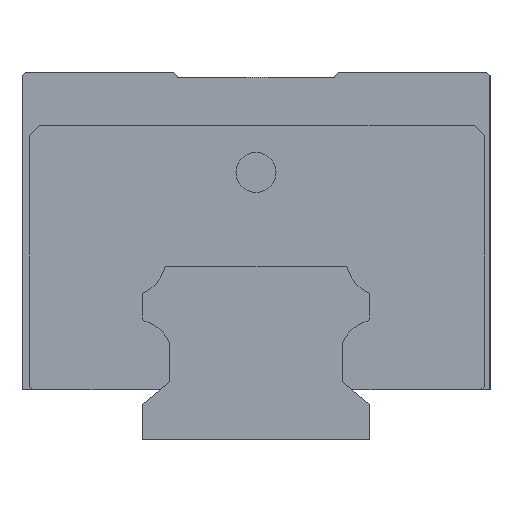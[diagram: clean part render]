
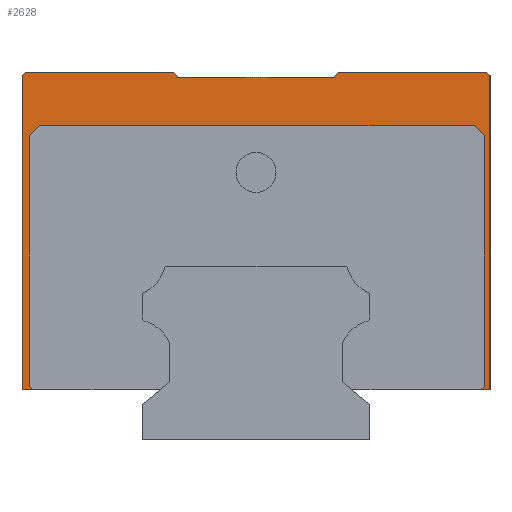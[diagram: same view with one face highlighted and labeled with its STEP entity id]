
A CAD part, left-side view. The second image highlights one B-rep face of the part: STEP entity #2628.
In plain terms, the highlighted planar face has unit normal (-1, 0, 0).
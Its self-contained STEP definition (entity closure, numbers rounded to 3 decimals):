
#35 = DIRECTION ( 'NONE',  ( 0., 1., 0. ) ) ;
#52 = CARTESIAN_POINT ( 'NONE',  ( -39.5, 12.296, 55. ) ) ;
#86 = DIRECTION ( 'NONE',  ( 0., -1., 0. ) ) ;
#93 = CARTESIAN_POINT ( 'NONE',  ( -39.5, 11.667, 54.25 ) ) ;
#211 = VECTOR ( 'NONE', #86, 1000. ) ;
#218 = LINE ( 'NONE', #4615, #2282 ) ;
#241 = DIRECTION ( 'NONE',  ( 0., 0., -1. ) ) ;
#316 = VERTEX_POINT ( 'NONE', #5755 ) ;
#364 = CARTESIAN_POINT ( 'NONE',  ( -39.5, 32.372, 47. ) ) ;
#410 = DIRECTION ( 'NONE',  ( 0., 1., 0. ) ) ;
#412 = ORIENTED_EDGE ( 'NONE', *, *, #1591, .F. ) ;
#418 = CARTESIAN_POINT ( 'NONE',  ( -39.5, -11.667, 54.25 ) ) ;
#433 = LINE ( 'NONE', #2764, #2066 ) ;
#464 = VERTEX_POINT ( 'NONE', #93 ) ;
#527 = LINE ( 'NONE', #418, #3419 ) ;
#622 = VERTEX_POINT ( 'NONE', #1875 ) ;
#626 = VECTOR ( 'NONE', #241, 1000. ) ;
#769 = CARTESIAN_POINT ( 'NONE',  ( -39.5, 33.872, 45.5 ) ) ;
#816 = ORIENTED_EDGE ( 'NONE', *, *, #1008, .F. ) ;
#879 = VERTEX_POINT ( 'NONE', #4540 ) ;
#908 = VERTEX_POINT ( 'NONE', #4942 ) ;
#935 = EDGE_CURVE ( 'NONE', #3233, #622, #433, .T. ) ;
#953 = DIRECTION ( 'NONE',  ( 0., 1., 0. ) ) ;
#1008 = EDGE_CURVE ( 'NONE', #4564, #4300, #5628, .T. ) ;
#1074 = VERTEX_POINT ( 'NONE', #5149 ) ;
#1094 = CARTESIAN_POINT ( 'NONE',  ( -39.5, 35., 55. ) ) ;
#1159 = EDGE_CURVE ( 'NONE', #3855, #879, #5268, .T. ) ;
#1160 = ORIENTED_EDGE ( 'NONE', *, *, #1303, .T. ) ;
#1250 = LINE ( 'NONE', #364, #3083 ) ;
#1257 = ORIENTED_EDGE ( 'NONE', *, *, #3523, .T. ) ;
#1281 = CARTESIAN_POINT ( 'NONE',  ( -39.5, 32.372, 47. ) ) ;
#1303 = EDGE_CURVE ( 'NONE', #316, #5116, #3616, .T. ) ;
#1383 = EDGE_CURVE ( 'NONE', #622, #908, #4824, .T. ) ;
#1388 = ORIENTED_EDGE ( 'NONE', *, *, #4782, .F. ) ;
#1406 = CARTESIAN_POINT ( 'NONE',  ( -39.5, 34.5, 55. ) ) ;
#1469 = LINE ( 'NONE', #3212, #1644 ) ;
#1490 = VECTOR ( 'NONE', #2030, 1000. ) ;
#1588 = VERTEX_POINT ( 'NONE', #3522 ) ;
#1591 = EDGE_CURVE ( 'NONE', #1607, #4564, #1250, .T. ) ;
#1607 = VERTEX_POINT ( 'NONE', #1281 ) ;
#1644 = VECTOR ( 'NONE', #1931, 1000. ) ;
#1722 = DIRECTION ( 'NONE',  ( 1., 0., 0. ) ) ;
#1747 = CARTESIAN_POINT ( 'NONE',  ( -39.5, 35., 7.5 ) ) ;
#1796 = CARTESIAN_POINT ( 'NONE',  ( -39.5, -12.296, 55. ) ) ;
#1812 = VECTOR ( 'NONE', #3423, 1000. ) ;
#1813 = VECTOR ( 'NONE', #953, 1000. ) ;
#1875 = CARTESIAN_POINT ( 'NONE',  ( -39.5, -34.128, 45.5 ) ) ;
#1931 = DIRECTION ( 'NONE',  ( 0., -0.707, -0.707 ) ) ;
#1954 = CARTESIAN_POINT ( 'NONE',  ( -39.5, 34.5, 55. ) ) ;
#1963 = VECTOR ( 'NONE', #3000, 1000. ) ;
#1975 = EDGE_CURVE ( 'NONE', #1074, #3995, #4430, .T. ) ;
#2001 = CARTESIAN_POINT ( 'NONE',  ( -39.5, -35., 7.5 ) ) ;
#2027 = VECTOR ( 'NONE', #5091, 1000. ) ;
#2030 = DIRECTION ( 'NONE',  ( 0., 0.643, 0.766 ) ) ;
#2058 = CARTESIAN_POINT ( 'NONE',  ( -39.5, 11.667, 54.25 ) ) ;
#2066 = VECTOR ( 'NONE', #4604, 1000. ) ;
#2076 = EDGE_CURVE ( 'NONE', #464, #2720, #4265, .T. ) ;
#2123 = ORIENTED_EDGE ( 'NONE', *, *, #935, .F. ) ;
#2168 = DIRECTION ( 'NONE',  ( 0., 0.707, -0.707 ) ) ;
#2202 = DIRECTION ( 'NONE',  ( 0., 0.707, 0.707 ) ) ;
#2280 = VECTOR ( 'NONE', #3353, 1000. ) ;
#2282 = VECTOR ( 'NONE', #5509, 1000. ) ;
#2406 = VERTEX_POINT ( 'NONE', #3360 ) ;
#2424 = VECTOR ( 'NONE', #2202, 1000. ) ;
#2442 = DIRECTION ( 'NONE',  ( 0., 1., 0. ) ) ;
#2628 = ADVANCED_FACE ( 'NONE', ( #5745 ), #5327, .F. ) ;
#2714 = ORIENTED_EDGE ( 'NONE', *, *, #4626, .F. ) ;
#2720 = VERTEX_POINT ( 'NONE', #52 ) ;
#2727 = VECTOR ( 'NONE', #3094, 1000. ) ;
#2764 = CARTESIAN_POINT ( 'NONE',  ( -39.5, -34.128, 8. ) ) ;
#2833 = LINE ( 'NONE', #1094, #211 ) ;
#2886 = CARTESIAN_POINT ( 'NONE',  ( -39.5, 33.872, 45.5 ) ) ;
#2932 = ORIENTED_EDGE ( 'NONE', *, *, #5560, .T. ) ;
#2956 = CARTESIAN_POINT ( 'NONE',  ( -39.5, -11.667, 54.25 ) ) ;
#3000 = DIRECTION ( 'NONE',  ( 0., 0.707, 0.707 ) ) ;
#3083 = VECTOR ( 'NONE', #2168, 1000. ) ;
#3094 = DIRECTION ( 'NONE',  ( 0., 0., 1. ) ) ;
#3097 = CARTESIAN_POINT ( 'NONE',  ( -39.5, -33.628, 7.5 ) ) ;
#3148 = CARTESIAN_POINT ( 'NONE',  ( -39.5, -32.628, 47. ) ) ;
#3187 = EDGE_CURVE ( 'NONE', #1588, #2406, #5586, .T. ) ;
#3194 = DIRECTION ( 'NONE',  ( 0., 0.643, -0.766 ) ) ;
#3212 = CARTESIAN_POINT ( 'NONE',  ( -39.5, 33.872, 8. ) ) ;
#3233 = VERTEX_POINT ( 'NONE', #4999 ) ;
#3347 = ORIENTED_EDGE ( 'NONE', *, *, #1159, .T. ) ;
#3353 = DIRECTION ( 'NONE',  ( 0., 1., 0. ) ) ;
#3360 = CARTESIAN_POINT ( 'NONE',  ( -39.5, -33.628, 7.5 ) ) ;
#3419 = VECTOR ( 'NONE', #35, 1000. ) ;
#3423 = DIRECTION ( 'NONE',  ( 0., 0., -1. ) ) ;
#3460 = CARTESIAN_POINT ( 'NONE',  ( -39.5, 33.872, 8. ) ) ;
#3522 = CARTESIAN_POINT ( 'NONE',  ( -39.5, -35., 7.5 ) ) ;
#3523 = EDGE_CURVE ( 'NONE', #4991, #3995, #5502, .T. ) ;
#3565 = LINE ( 'NONE', #3097, #5379 ) ;
#3596 = ORIENTED_EDGE ( 'NONE', *, *, #1383, .F. ) ;
#3616 = LINE ( 'NONE', #1796, #3946 ) ;
#3685 = CARTESIAN_POINT ( 'NONE',  ( -39.5, 35., 54.5 ) ) ;
#3701 = CARTESIAN_POINT ( 'NONE',  ( -39.5, -34.128, 45.5 ) ) ;
#3784 = VECTOR ( 'NONE', #2442, 1000. ) ;
#3855 = VERTEX_POINT ( 'NONE', #4304 ) ;
#3869 = CARTESIAN_POINT ( 'NONE',  ( -39.5, -35., 55. ) ) ;
#3931 = LINE ( 'NONE', #3869, #1812 ) ;
#3933 = CARTESIAN_POINT ( 'NONE',  ( -39.5, -35., 54.5 ) ) ;
#3946 = VECTOR ( 'NONE', #3194, 1000. ) ;
#3949 = EDGE_CURVE ( 'NONE', #4300, #4467, #1469, .T. ) ;
#3995 = VERTEX_POINT ( 'NONE', #3685 ) ;
#4065 = EDGE_CURVE ( 'NONE', #2406, #3233, #3565, .T. ) ;
#4265 = LINE ( 'NONE', #2058, #1490 ) ;
#4300 = VERTEX_POINT ( 'NONE', #3460 ) ;
#4304 = CARTESIAN_POINT ( 'NONE',  ( -39.5, -35., 54.5 ) ) ;
#4430 = LINE ( 'NONE', #1747, #2727 ) ;
#4460 = CARTESIAN_POINT ( 'NONE',  ( -39.5, -35., 55. ) ) ;
#4462 = DIRECTION ( 'NONE',  ( 0., -0.707, 0.707 ) ) ;
#4467 = VERTEX_POINT ( 'NONE', #4675 ) ;
#4506 = EDGE_LOOP ( 'NONE', ( #2123, #5609, #5009, #5358, #3347, #5478, #1160, #2932, #5543, #4826, #1257, #5731, #1388, #5773, #816, #412, #2714, #3596 ) ) ;
#4540 = CARTESIAN_POINT ( 'NONE',  ( -39.5, -34.5, 55. ) ) ;
#4561 = AXIS2_PLACEMENT_3D ( 'NONE', #4460, #1722, #410 ) ;
#4564 = VERTEX_POINT ( 'NONE', #769 ) ;
#4604 = DIRECTION ( 'NONE',  ( 0., 0., 1. ) ) ;
#4615 = CARTESIAN_POINT ( 'NONE',  ( -39.5, 35., 55. ) ) ;
#4626 = EDGE_CURVE ( 'NONE', #908, #1607, #4890, .T. ) ;
#4675 = CARTESIAN_POINT ( 'NONE',  ( -39.5, 33.372, 7.5 ) ) ;
#4782 = EDGE_CURVE ( 'NONE', #4467, #1074, #5054, .T. ) ;
#4824 = LINE ( 'NONE', #3701, #1963 ) ;
#4826 = ORIENTED_EDGE ( 'NONE', *, *, #5630, .F. ) ;
#4890 = LINE ( 'NONE', #3148, #1813 ) ;
#4942 = CARTESIAN_POINT ( 'NONE',  ( -39.5, -32.628, 47. ) ) ;
#4968 = EDGE_CURVE ( 'NONE', #316, #879, #2833, .T. ) ;
#4991 = VERTEX_POINT ( 'NONE', #1406 ) ;
#4999 = CARTESIAN_POINT ( 'NONE',  ( -39.5, -34.128, 8. ) ) ;
#5009 = ORIENTED_EDGE ( 'NONE', *, *, #3187, .F. ) ;
#5054 = LINE ( 'NONE', #5143, #3784 ) ;
#5091 = DIRECTION ( 'NONE',  ( 0., 0.707, -0.707 ) ) ;
#5116 = VERTEX_POINT ( 'NONE', #2956 ) ;
#5143 = CARTESIAN_POINT ( 'NONE',  ( -39.5, 14.65, 7.5 ) ) ;
#5149 = CARTESIAN_POINT ( 'NONE',  ( -39.5, 35., 7.5 ) ) ;
#5268 = LINE ( 'NONE', #3933, #2424 ) ;
#5327 = PLANE ( 'NONE',  #4561 ) ;
#5358 = ORIENTED_EDGE ( 'NONE', *, *, #5373, .F. ) ;
#5373 = EDGE_CURVE ( 'NONE', #3855, #1588, #3931, .T. ) ;
#5379 = VECTOR ( 'NONE', #4462, 1000. ) ;
#5478 = ORIENTED_EDGE ( 'NONE', *, *, #4968, .F. ) ;
#5502 = LINE ( 'NONE', #1954, #2027 ) ;
#5509 = DIRECTION ( 'NONE',  ( 0., -1., 0. ) ) ;
#5543 = ORIENTED_EDGE ( 'NONE', *, *, #2076, .T. ) ;
#5560 = EDGE_CURVE ( 'NONE', #5116, #464, #527, .T. ) ;
#5586 = LINE ( 'NONE', #2001, #2280 ) ;
#5609 = ORIENTED_EDGE ( 'NONE', *, *, #4065, .F. ) ;
#5628 = LINE ( 'NONE', #2886, #626 ) ;
#5630 = EDGE_CURVE ( 'NONE', #4991, #2720, #218, .T. ) ;
#5731 = ORIENTED_EDGE ( 'NONE', *, *, #1975, .F. ) ;
#5745 = FACE_OUTER_BOUND ( 'NONE', #4506, .T. ) ;
#5755 = CARTESIAN_POINT ( 'NONE',  ( -39.5, -12.296, 55. ) ) ;
#5773 = ORIENTED_EDGE ( 'NONE', *, *, #3949, .F. ) ;
